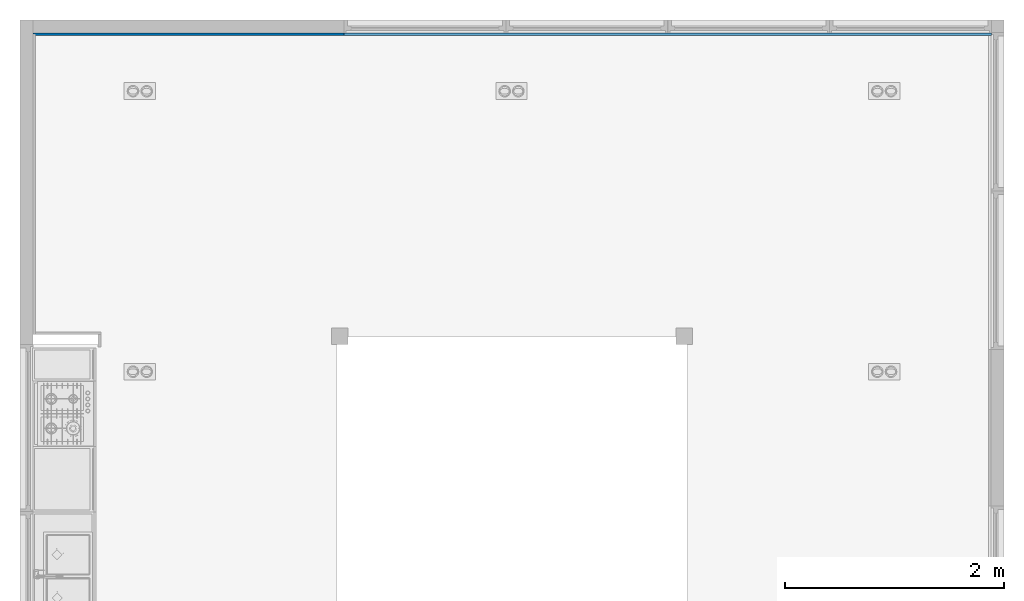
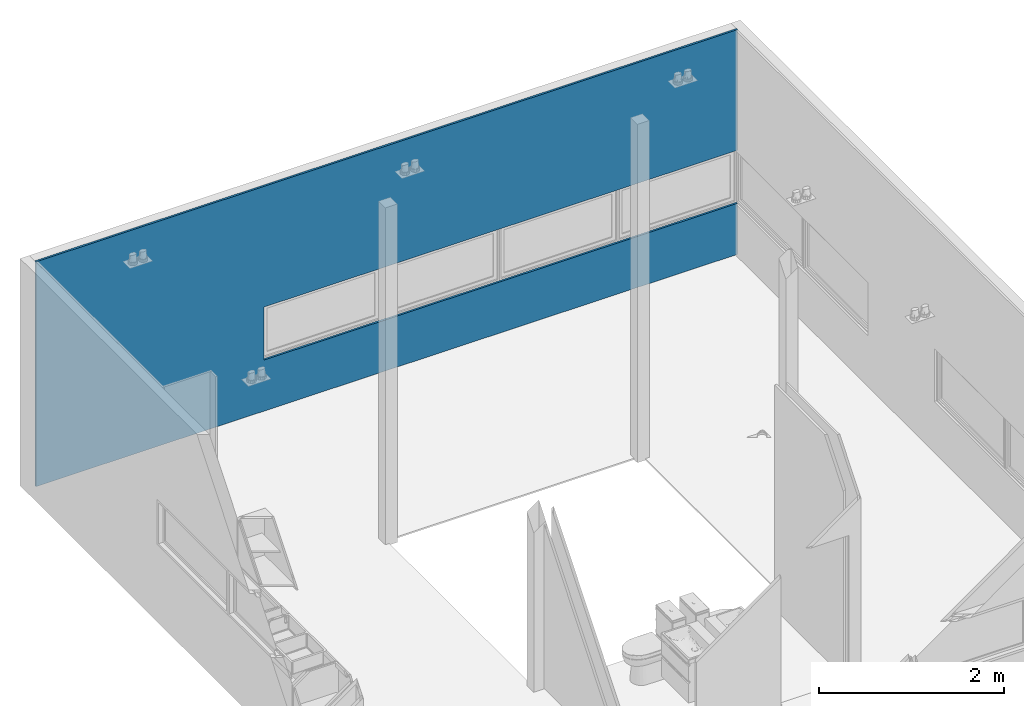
# One storey, part 3 of 5: 1 wall, 1 opening.
"""IFC2X3 building model written with IfcOpenShell, lengths in centimetres."""

from ifc_helpers import new_model, entity, si_unit, converted_unit, derived_unit, direction, frame, frame_2d, origin, place, context, subcontext, project, spatial, rectangle, extrude, material, layer, layer_set, layer_usage, type_object, element, save


model = new_model("IFC2X3")

# Units and contexts
model_context = context("Model", 3, precision=0.001, world=origin(), true_north=direction((6.123233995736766e-17, 1.0)))
body_context = subcontext(model_context, "Body", "Model", "MODEL_VIEW")
ifc_project = project(units=[si_unit("LENGTHUNIT", "METRE", prefix="CENTI"), si_unit("AREAUNIT", "SQUARE_METRE"), si_unit("VOLUMEUNIT", "CUBIC_METRE"), converted_unit("PLANEANGLEUNIT", "DEGREE", entity("IfcPlaneAngleMeasure", 0.017453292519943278), si_unit("PLANEANGLEUNIT", "RADIAN"), dimensions=[0, 0, 0, 0, 0, 0, 0]), si_unit("POWERUNIT", "WATT"), derived_unit("USERDEFINED", [(si_unit("MASSUNIT", "GRAM", prefix="KILO"), 1), (si_unit("TIMEUNIT", "SECOND"), -3)]), si_unit("FORCEUNIT", "NEWTON", prefix="KILO"), derived_unit("THERMALTRANSMITTANCEUNIT", [(si_unit("MASSUNIT", "GRAM", prefix="KILO"), 1), (si_unit("TIMEUNIT", "SECOND"), -3), (si_unit("THERMODYNAMICTEMPERATUREUNIT", "KELVIN"), -1)]), derived_unit("USERDEFINED", [(si_unit("MASSUNIT", "GRAM", prefix="KILO"), 1), (si_unit("THERMODYNAMICTEMPERATUREUNIT", "KELVIN"), -1), (si_unit("TIMEUNIT", "SECOND"), -2)]), derived_unit("THERMALRESISTANCEUNIT", [(si_unit("MASSUNIT", "GRAM", prefix="KILO"), -1), (si_unit("TIMEUNIT", "SECOND"), 3), (si_unit("THERMODYNAMICTEMPERATUREUNIT", "KELVIN"), 1)]), derived_unit("USERDEFINED", [(si_unit("MASSUNIT", "GRAM", prefix="KILO"), -1), (si_unit("TIMEUNIT", "SECOND"), 3), (si_unit("LENGTHUNIT", "METRE"), -2), (si_unit("LUMINOUSFLUXUNIT", "LUMEN"), 1)]), si_unit("LUMINOUSFLUXUNIT", "LUMEN")], contexts=[model_context])

# Site, building, storey
site_placement = place(None, origin())
site = spatial("IfcSite", under=ifc_project, at=site_placement, Name="Default", CompositionType="ELEMENT")
building_placement = place(site_placement, origin())
building = spatial("IfcBuilding", under=site, at=building_placement, Name="Workshop Hbaitáculo - Refugio Tierra del Fuego", CompositionType="ELEMENT")
storey_placement = place(building_placement, frame((0.0, 0.0, 123.0)))
storey = spatial("IfcBuildingStorey", under=building, at=storey_placement, Name="NPT", CompositionType="ELEMENT", Elevation=123.0)

# Wall, opening
ifc_material_1 = material(Name="Rev Melamina tipo madera")
ifc_layer_1 = layer(ifc_material_1, 1.5)
ifc_material_2 = material(Name="Volcanita ST")
ifc_layer_2 = layer(ifc_material_2, 1.0)
ifc_layer_set = layer_set([ifc_layer_1, ifc_layer_2], Name="Muro básico:Rev Volcanita ST +  Melamina tipo madera")
ifc_layer_usage = layer_usage(ifc_layer_set, "AXIS2", "POSITIVE", -1.25)
wall_type = type_object("IfcWallType", Name="Muro básico:Rev Volcanita ST +  Melamina tipo madera", PredefinedType="STANDARD", material=ifc_layer_set)
wall_placement = place(storey_placement, frame((11.549999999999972, 296.19999999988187, 1.0)))
wall = element("IfcWallStandardCase", 1, at=wall_placement, inside=storey, type_object=wall_type, material=ifc_layer_usage, Name="Muro básico:Rev Volcanita ST +  Melamina tipo madera", ObjectType="Muro básico:Rev Volcanita ST +  Melamina tipo madera", context=body_context, shape_type="SweptSolid", body=[
    extrude(rectangle(XDim=877.0500000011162, YDim=2.4999999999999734, at=frame_2d((438.5250000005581, -9.769962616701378e-15), x_axis=(-1.0, 0.0))), origin(), (0.0, 0.0, 1.0), 296.99999999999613),
])
opening_placement = place(wall_placement, origin())
element("IfcOpeningElement", 2, at=opening_placement, cuts=wall, Name="Muro básico:Rev Volcanita ST +  Melamina tipo madera", ObjectType="Opening", context=body_context, shape_type="SweptSolid", body=[
    extrude(rectangle(XDim=69.99999999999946, YDim=592.2243577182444, at=frame_2d((0.0, -8.526512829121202e-14), x_axis=(1.0, 0.0))), frame((580.937821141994, 1.2499999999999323, 102.5000000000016), z_axis=(0.0, -1.0, 0.0), x_axis=(0.0, 0.0, 1.0)), (0.0, 0.0, 1.0), 2.5),
])

save(model, "model.ifc")
